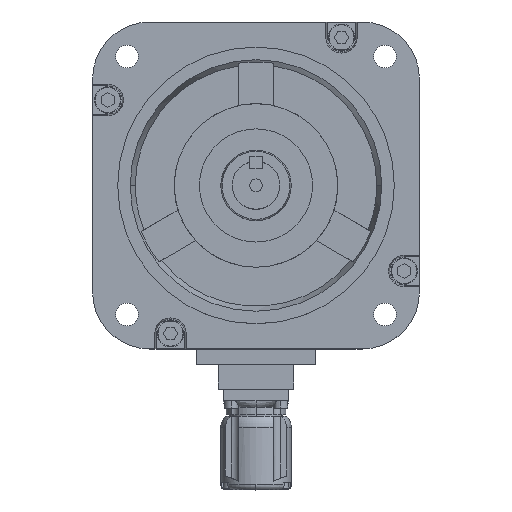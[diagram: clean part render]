
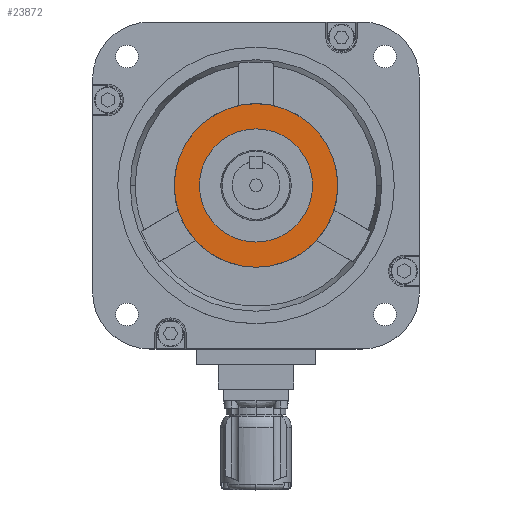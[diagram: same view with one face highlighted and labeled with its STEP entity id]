
A CAD part, top view. The second image highlights one B-rep face of the part: STEP entity #23872.
In plain terms, the highlighted planar face has unit normal (0, 0, 1).
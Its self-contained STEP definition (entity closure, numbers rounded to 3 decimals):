
#8088 = DIRECTION ( 'NONE',  ( 1., 0., 0. ) ) ;
#8089 = DIRECTION ( 'NONE',  ( 0., 0., 1. ) ) ;
#8090 = CARTESIAN_POINT ( 'NONE',  ( 0., 0., 6. ) ) ;
#8091 = AXIS2_PLACEMENT_3D ( 'NONE', #8090, #8089, #8088 ) ;
#8092 = PLANE ( 'NONE',  #8091 ) ;
#8093 = FACE_OUTER_BOUND ( 'NONE', #23928, .T. ) ;
#8094 = FACE_BOUND ( 'NONE', #23873, .T. ) ;
#8243 = DIRECTION ( 'NONE',  ( 1., 0., 0. ) ) ;
#8244 = DIRECTION ( 'NONE',  ( 0., 0., 1. ) ) ;
#8245 = CARTESIAN_POINT ( 'NONE',  ( 0., 0., 6. ) ) ;
#8246 = AXIS2_PLACEMENT_3D ( 'NONE', #8245, #8244, #8243 ) ;
#8247 = CIRCLE ( 'NONE', #8246, 22.5 ) ;
#13996 = CARTESIAN_POINT ( 'NONE',  ( -22.5, 0., 6. ) ) ;
#13997 = DIRECTION ( 'NONE',  ( 1., 0., 0. ) ) ;
#13998 = DIRECTION ( 'NONE',  ( 0., 0., 1. ) ) ;
#13999 = CARTESIAN_POINT ( 'NONE',  ( 0., 0., 6. ) ) ;
#14000 = AXIS2_PLACEMENT_3D ( 'NONE', #13999, #13998, #13997 ) ;
#14001 = CIRCLE ( 'NONE', #14000, 22.5 ) ;
#14002 = CARTESIAN_POINT ( 'NONE',  ( 22.5, 0., 6. ) ) ;
#15517 = VERTEX_POINT ( 'NONE', #28265 ) ;
#15519 = EDGE_CURVE ( 'NONE', #15520, #15517, #28264, .T. ) ;
#15520 = VERTEX_POINT ( 'NONE', #28259 ) ;
#16418 = EDGE_CURVE ( 'NONE', #15517, #15520, #30060, .T. ) ;
#23872 = ADVANCED_FACE ( 'NONE', ( #8094, #8093 ), #8092, .T. ) ;
#23873 = EDGE_LOOP ( 'NONE', ( #23926, #23927 ) ) ;
#23926 = ORIENTED_EDGE ( 'NONE', *, *, #23949, .F. ) ;
#23927 = ORIENTED_EDGE ( 'NONE', *, *, #33742, .F. ) ;
#23928 = EDGE_LOOP ( 'NONE', ( #23929, #23930 ) ) ;
#23929 = ORIENTED_EDGE ( 'NONE', *, *, #15519, .T. ) ;
#23930 = ORIENTED_EDGE ( 'NONE', *, *, #16418, .T. ) ;
#23949 = EDGE_CURVE ( 'NONE', #33743, #33744, #8247, .T. ) ;
#28259 = CARTESIAN_POINT ( 'NONE',  ( 32.5, 0., 6. ) ) ;
#28260 = DIRECTION ( 'NONE',  ( 1., 0., 0. ) ) ;
#28261 = DIRECTION ( 'NONE',  ( 0., 0., 1. ) ) ;
#28262 = CARTESIAN_POINT ( 'NONE',  ( 0., 0., 6. ) ) ;
#28263 = AXIS2_PLACEMENT_3D ( 'NONE', #28262, #28261, #28260 ) ;
#28264 = CIRCLE ( 'NONE', #28263, 32.5 ) ;
#28265 = CARTESIAN_POINT ( 'NONE',  ( -32.5, 0., 6. ) ) ;
#30056 = DIRECTION ( 'NONE',  ( 1., 0., 0. ) ) ;
#30057 = DIRECTION ( 'NONE',  ( 0., 0., 1. ) ) ;
#30058 = CARTESIAN_POINT ( 'NONE',  ( 0., 0., 6. ) ) ;
#30059 = AXIS2_PLACEMENT_3D ( 'NONE', #30058, #30057, #30056 ) ;
#30060 = CIRCLE ( 'NONE', #30059, 32.5 ) ;
#33742 = EDGE_CURVE ( 'NONE', #33744, #33743, #14001, .T. ) ;
#33743 = VERTEX_POINT ( 'NONE', #14002 ) ;
#33744 = VERTEX_POINT ( 'NONE', #13996 ) ;
